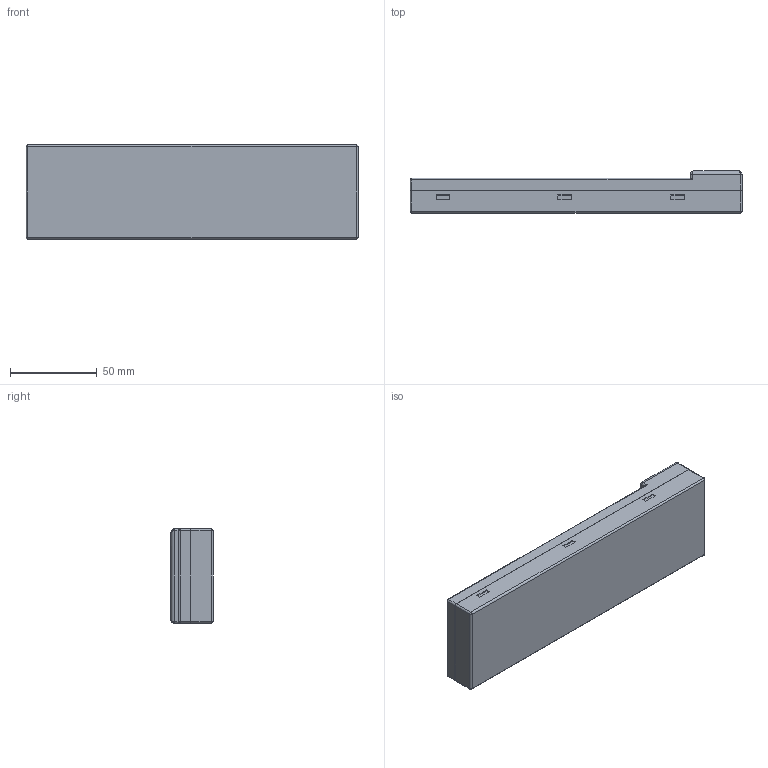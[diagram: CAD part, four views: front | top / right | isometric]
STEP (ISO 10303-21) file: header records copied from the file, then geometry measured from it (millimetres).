
FILE_DESCRIPTION (( 'STEP AP214' ), '1' );
FILE_NAME ('YINWSMUL-9 (0)_–{‘Ì.STEP', '2023-03-30T01:17:47', ( '' ), ( '' ), 'SwSTEP 2.0', 'SolidWorks 2021', '' );
FILE_SCHEMA (( 'AUTOMOTIVE_DESIGN' ));
Length unit declared in the file: millimetre
Products named in the file (1): YINWSMUL-9 (0)_本体
Bounding box: 191 x 24.2 x 54.2 mm (x, y, z)
Volume: 212021.1 mm3; surface area: 33850.5 mm2
Topology: 1 solids, 3 shells, 710 faces, 1896 edges, 1240 vertices
Faces by surface type: plane 491, bspline 134, cylinder 65, cone 8, torus 6, sphere 6
Entity records: 33990 total; most frequent: CARTESIAN_POINT 9443, ORIENTED_EDGE 3772, DIRECTION 2896, EDGE_CURVE 1886, LINE 1470, VECTOR 1470, VERTEX_POINT 1240, EDGE_LOOP 772
